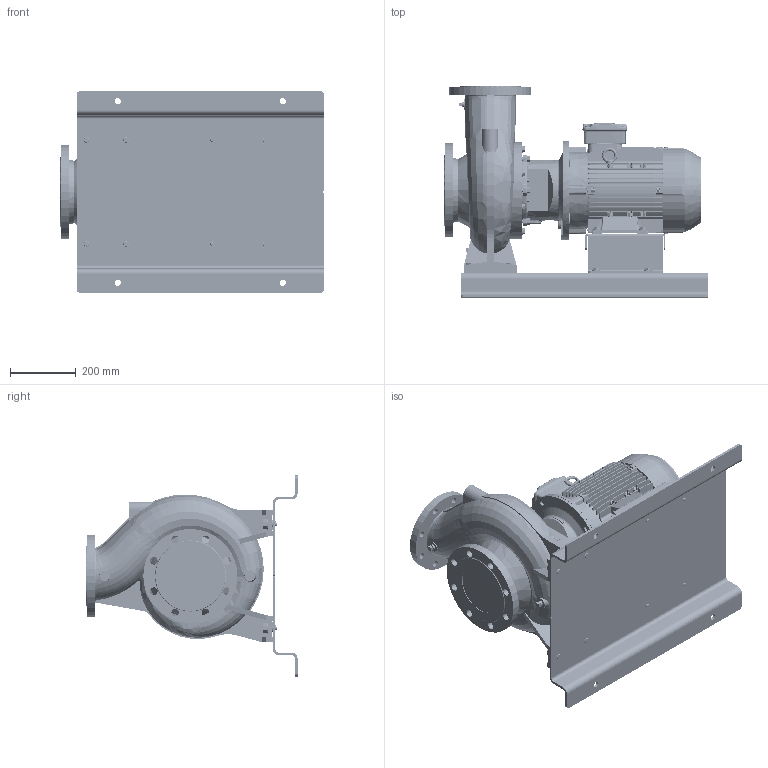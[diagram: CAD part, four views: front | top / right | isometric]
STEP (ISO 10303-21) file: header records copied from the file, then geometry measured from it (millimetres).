
FILE_DESCRIPTION (( 'STEP AP214' ), '1' );
FILE_NAME ('GSD4 125-200_5.5_(132S)_W21_BP.STEP', '2026-05-08T05:04:29', ( '' ), ( '' ), 'SwSTEP 2.0', 'SolidWorks 2024', '' );
FILE_SCHEMA (( 'AUTOMOTIVE_DESIGN' ));
Length unit declared in the file: millimetre
Products named in the file (13): GSD4 125-200_5.5_(132S)_W21_BP; Parametric bolt and washer_SFT-A249B; Parametric Flat Washer_M16; 125-200-132S_ﾃﾞﾌｫﾙﾄ; Parametric bolt and washer_SFT-A351B; Parametric bolt_SFT-A253B; Parametric bolt_SFT-A249B; 140_178 x 118 BP - CGSDA-5245; Parametric bolt_SFT-A351B; Parametric bolt and washer_SFT-A253B; 132S ALIE3_W21T_B35; Parametric Flat Washer_M10; N7S6 GSDA-763 F1-1832943-00
Assembly tree (22 placements, depth 3):
  GSD4 125-200_5.5_(132S)_W21_BP
    125-200-132S_ﾃﾞﾌｫﾙﾄ
    N7S6 GSDA-763 F1-1832943-00
    140_178 x 118 BP - CGSDA-5245
    Parametric bolt and washer_SFT-A351B  x4
      Parametric bolt_SFT-A351B
      Parametric Flat Washer_M16
    Parametric bolt and washer_SFT-A249B  x4
      Parametric bolt_SFT-A249B
      Parametric Flat Washer_M10
    Parametric bolt and washer_SFT-A253B  x4
      Parametric bolt_SFT-A253B
      Parametric Flat Washer_M10
    132S ALIE3_W21T_B35
Bounding box: 800 x 640 x 610 mm (x, y, z)
Volume: 51563132.8 mm3; surface area: 3720952.7 mm2
Topology: 32 solids, 32 shells, 4985 faces, 12853 edges, 8293 vertices
Faces by surface type: plane 2964, cylinder 1166, bspline 283, cone 271, torus 269, sphere 32
Entity records: 181773 total; most frequent: CARTESIAN_POINT 73793, ORIENTED_EDGE 23148, DIRECTION 21002, EDGE_CURVE 11574, LINE 7738, VECTOR 7738, VERTEX_POINT 7474, AXIS2_PLACEMENT_3D 6632
